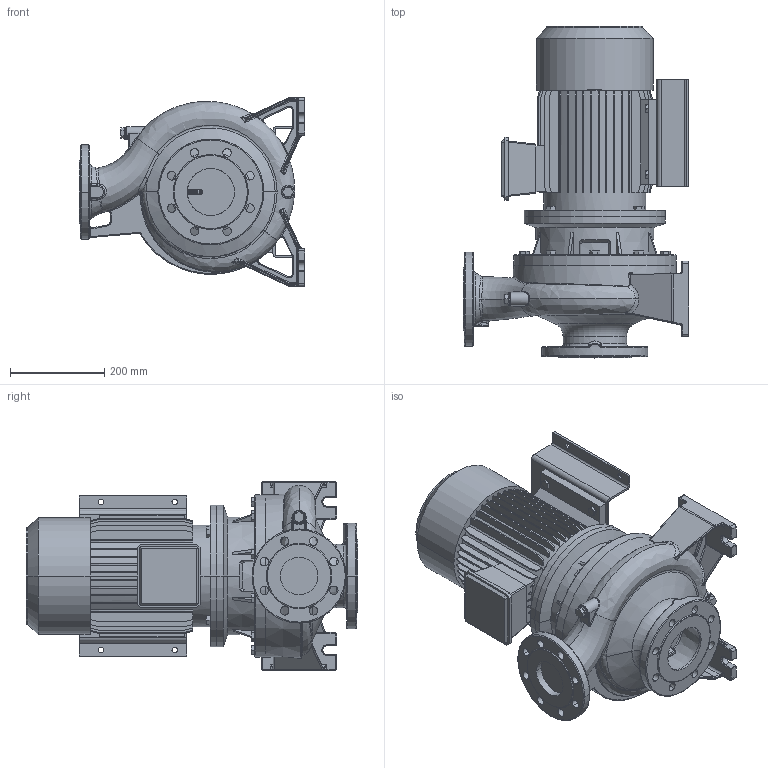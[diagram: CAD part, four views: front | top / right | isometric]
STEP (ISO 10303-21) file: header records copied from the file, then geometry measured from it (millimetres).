
FILE_DESCRIPTION((''),'2;1');
FILE_NAME('3S4_80-250_5_5_IE3_ASM','2016-09-24T',('rosa'),('"Ebara Pumps Europe +39.444.706811"'),'PRO/ENGINEER BY PARAMETRIC TECHNOLOGY CORPORATION, 2012130','PRO/ENGINEER BY PARAMETRIC TECHNOLOGY CORPORATION, 2012130','');
FILE_SCHEMA(('AUTOMOTIVE_DESIGN { 1 0 10303 214 1 1 1 1 }'));
Products named in the file (7): MOTORE_132_5_5_KW_4POLI_B35; SOSTEGNO_72191_132S; M10X22; ANELLO_10074; SUPPORTO_3S_266_100_112; CORPO_POMPA_80-250; 3S4_80-250_5_5_IE3_ASM
Assembly tree (9 placements, depth 2):
  3S4_80-250_5_5_IE3_ASM
    MOTORE_132_5_5_KW_4POLI_B35
    SOSTEGNO_72191_132S
    M10X22  x4
    ANELLO_10074
    SUPPORTO_3S_266_100_112
    CORPO_POMPA_80-250
Bounding box: 480 x 705 x 400 mm (x, y, z)
Volume: 36574941.1 mm3; surface area: 2145152.3 mm2
Topology: 9 solids, 9 shells, 1383 faces, 3406 edges, 2117 vertices
Faces by surface type: plane 660, cylinder 309, bspline 221, torus 110, cone 61, sphere 22
Entity records: 60741 total; most frequent: CARTESIAN_POINT 19386, ORIENTED_EDGE 6536, DIRECTION 5856, PRESENTATION_STYLE_ASSIGNMENT 3274, STYLED_ITEM 3274, CURVE_STYLE 3268, EDGE_CURVE 3268, AXIS2_PLACEMENT_3D 2089
